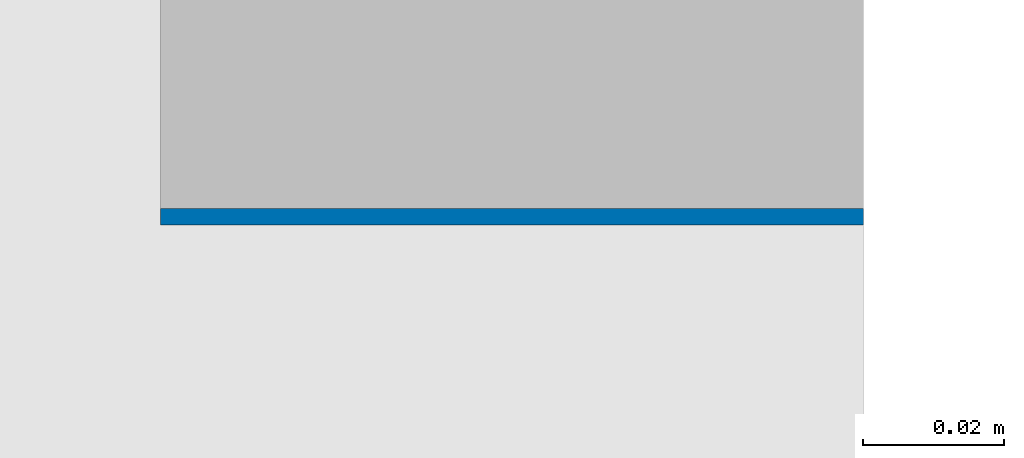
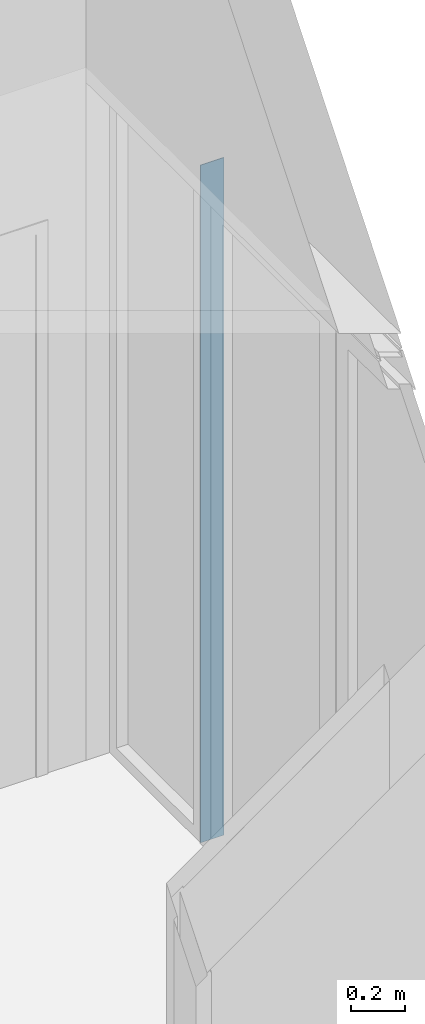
# One storey, part 173 of 240: 1 wall, 2 openings.
"""IFC2X3 building model written with IfcOpenShell, lengths in centimetres."""

from ifc_helpers import new_model, entity, si_unit, converted_unit, derived_unit, direction, frame, frame_2d, origin, origin_2d_with_axis, place, context, subcontext, project, spatial, rectangle, extrude, material, layer, layer_set, layer_usage, type_object, element, save


model = new_model("IFC2X3")

# Units and contexts
model_context = context("Model", 3, precision=0.001, world=origin(), true_north=direction((6.12303176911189e-17, 1.0)))
body_context = subcontext(model_context, "Body", "Model", "MODEL_VIEW")
ifc_project = project(units=[si_unit("LENGTHUNIT", "METRE", prefix="CENTI"), si_unit("AREAUNIT", "SQUARE_METRE"), si_unit("VOLUMEUNIT", "CUBIC_METRE"), converted_unit("PLANEANGLEUNIT", "DEGREE", entity("IfcRatioMeasure", 0.0174532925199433), si_unit("PLANEANGLEUNIT", "RADIAN"), dimensions=[0, 0, 0, 0, 0, 0, 0]), si_unit("MASSUNIT", "GRAM", prefix="KILO"), derived_unit("MASSDENSITYUNIT", [(si_unit("MASSUNIT", "GRAM", prefix="KILO"), 1), (si_unit("LENGTHUNIT", "METRE"), -3)]), si_unit("TIMEUNIT", "SECOND"), si_unit("FREQUENCYUNIT", "HERTZ"), si_unit("THERMODYNAMICTEMPERATUREUNIT", "DEGREE_CELSIUS"), derived_unit("THERMALTRANSMITTANCEUNIT", [(si_unit("MASSUNIT", "GRAM", prefix="KILO"), 1), (si_unit("THERMODYNAMICTEMPERATUREUNIT", "KELVIN"), -1), (si_unit("TIMEUNIT", "SECOND"), -3)]), derived_unit("VOLUMETRICFLOWRATEUNIT", [(si_unit("LENGTHUNIT", "METRE"), 3), (si_unit("TIMEUNIT", "SECOND"), -1)]), si_unit("ELECTRICCURRENTUNIT", "AMPERE"), si_unit("ELECTRICVOLTAGEUNIT", "VOLT"), si_unit("POWERUNIT", "WATT"), si_unit("FORCEUNIT", "NEWTON", prefix="KILO"), si_unit("ILLUMINANCEUNIT", "LUX"), si_unit("LUMINOUSFLUXUNIT", "LUMEN"), si_unit("LUMINOUSINTENSITYUNIT", "CANDELA"), derived_unit("USERDEFINED", [(si_unit("MASSUNIT", "GRAM", prefix="KILO"), -1), (si_unit("LENGTHUNIT", "METRE"), -2), (si_unit("TIMEUNIT", "SECOND"), 3), (si_unit("LUMINOUSFLUXUNIT", "LUMEN"), 1)]), derived_unit("LINEARVELOCITYUNIT", [(si_unit("LENGTHUNIT", "METRE"), 1), (si_unit("TIMEUNIT", "SECOND"), -1)]), si_unit("PRESSUREUNIT", "PASCAL"), derived_unit("USERDEFINED", [(si_unit("LENGTHUNIT", "METRE"), -2), (si_unit("MASSUNIT", "GRAM", prefix="KILO"), 1), (si_unit("TIMEUNIT", "SECOND"), -2)])], contexts=[model_context])

# Site, building, storey
site_placement = place(None, frame((-2781.94577612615, 7442.24238424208, 0.0)))
site = spatial("IfcSite", under=ifc_project, at=site_placement, Name="Default", CompositionType="ELEMENT")
building_placement = place(site_placement, origin())
building = spatial("IfcBuilding", under=site, at=building_placement, CompositionType="ELEMENT")
storey_placement = place(building_placement, origin())
storey = spatial("IfcBuildingStorey", under=building, at=storey_placement, Name="N00 - COO", CompositionType="ELEMENT", Elevation=0.0)

# Wall, openings
ifc_material_1 = material(Name="01 - Enduit/Plâtre")
ifc_layer_1 = layer(ifc_material_1, 1.3)
ifc_material_2 = material(Name="00 - Isolant")
ifc_layer_2 = layer(ifc_material_2, 7.4)
ifc_layer_3 = layer(ifc_material_1, 1.3)
ifc_layer_set = layer_set([ifc_layer_1, ifc_layer_2, ifc_layer_3], Name="Mur de base:06 - cloisons - Ba13 10cm")
ifc_layer_usage = layer_usage(ifc_layer_set, "AXIS2", "NEGATIVE", 5.0)
wall_type = type_object("IfcWallType", Name="Mur de base:06 - cloisons - Ba13 10cm", PredefinedType="STANDARD", material=ifc_layer_set)
wall_placement = place(storey_placement, frame((-394.999882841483, -1997.16441285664, 0.0), z_axis=(0.0, 0.0, 1.0), x_axis=(0.0, -1.0, 0.0)))
wall = element("IfcWallStandardCase", 1, at=wall_placement, inside=storey, type_object=wall_type, material=ifc_layer_usage, Name="Mur de base:06 - cloisons - Ba13 10cm", ObjectType="Mur de base:06 - cloisons - Ba13 10cm", context=body_context, shape_type="SweptSolid", body=[
    extrude(rectangle(XDim=0.235109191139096, YDim=10.0, at=frame_2d((0.117554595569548, 0.0), x_axis=(-1.0, 0.0))), origin(), (0.0, 0.0, 1.0), 306.0),
])
opening_1_placement = place(wall_placement, frame((-1997.16441285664, 394.999882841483, 0.0), z_axis=(0.0, 0.0, 1.0), x_axis=(0.0, 1.0, 0.0)))
element("IfcOpeningElement", 2, at=opening_1_placement, cuts=wall, Name="Mur de base:06 - cloisons - Ba13 10cm", ObjectType="Opening", context=body_context, shape_type="SweptSolid", body=[
    extrude(rectangle(XDim=321.0, YDim=192.757045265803, at=origin_2d_with_axis()), frame((-451.199882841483, -2093.77804468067, 145.5), z_axis=(1.0, 0.0, 0.0), x_axis=(0.0, 0.0, -1.0)), (0.0, 0.0, 1.0), 61.2999999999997),
])
opening_2_placement = place(wall_placement, frame((0.0, 5.0, 0.0)))
element("IfcOpeningElement", 3, at=opening_2_placement, cuts=wall, Name="châssis intérieur vitré:RDC - Pignon -  châssis intérieur vitré (3.11m):1", ObjectType="Opening", context=body_context, shape_type="SweptSolid", body=[
    extrude(rectangle(XDim=306.0, YDim=67.0078455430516, at=frame_2d((153.0, 33.5039227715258), x_axis=(1.0, 0.0))), frame((0.0, 0.0, 0.0), z_axis=(0.0, -1.0, 0.0), x_axis=(0.0, 0.0, 1.0)), (0.0, 0.0, 1.0), 10.0),
])

save(model, "model.ifc")
